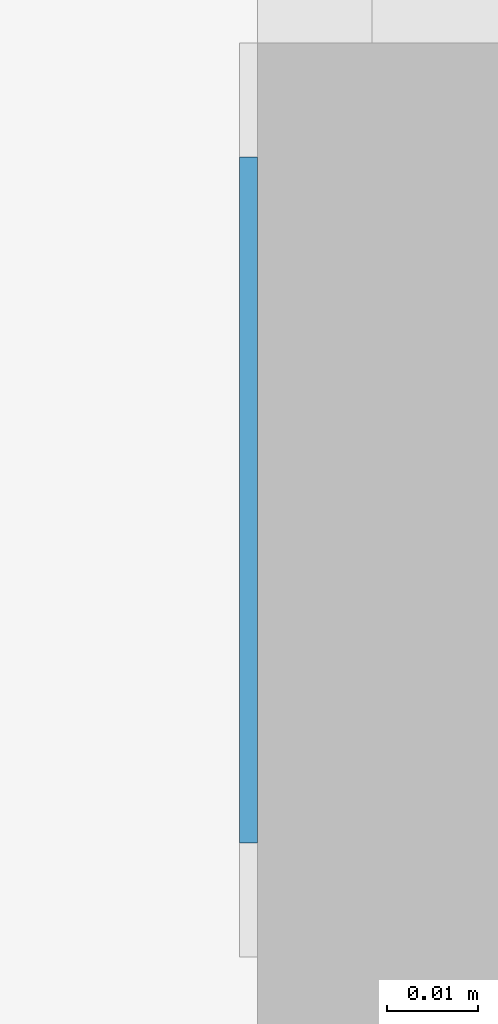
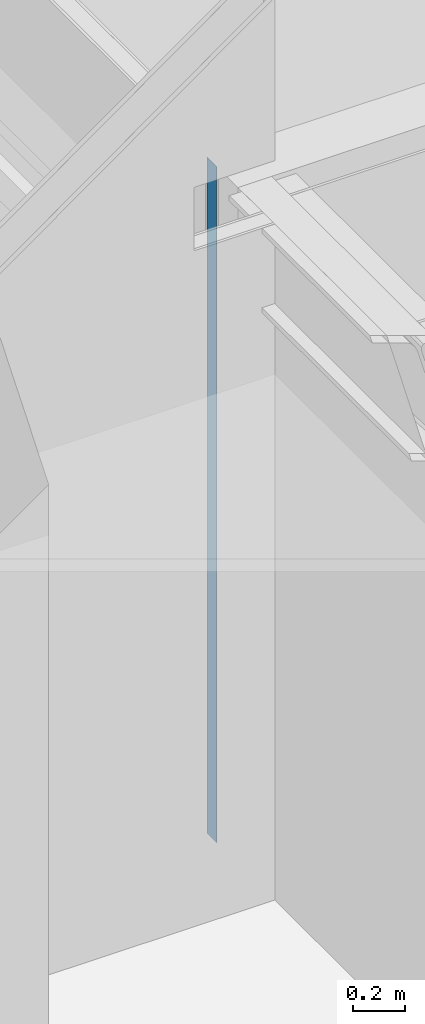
# One storey, part 80 of 117: 1 building element part, 1 element without a shape of its own.
"""IFC2X3 building model written with IfcOpenShell, lengths in millimetres."""

from ifc_helpers import new_model, entity, si_unit, converted_unit, derived_unit, money_unit, direction, frame, origin_with_axes, place, context, subcontext, project, spatial, faceted_brep, material, type_object, element, aggregate, save


model = new_model("IFC2X3")

# Units and contexts
model_context = context("Model", 3, precision=0.01, world=origin_with_axes(), true_north=direction((0.0, 1.0)))
body_context = subcontext(model_context, "Body", "Model", "MODEL_VIEW")
ifc_project = project(units=[si_unit("LENGTHUNIT", "METRE", prefix="MILLI"), si_unit("AREAUNIT", "SQUARE_METRE"), si_unit("VOLUMEUNIT", "CUBIC_METRE"), converted_unit("PLANEANGLEUNIT", "DEGREE", entity("IfcPlaneAngleMeasure", 0.0174532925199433), si_unit("PLANEANGLEUNIT", "RADIAN"), dimensions=[0, 0, 0, 0, 0, 0, 0]), money_unit("EUR"), converted_unit("TIMEUNIT", "Year", entity("IfcTimeMeasure", 31557600.0), si_unit("TIMEUNIT", "SECOND"), dimensions=[0, 0, 1, 0, 0, 0, 0]), si_unit("MASSUNIT", "GRAM", prefix="KILO"), si_unit("THERMODYNAMICTEMPERATUREUNIT", "DEGREE_CELSIUS"), si_unit("LUMINOUSINTENSITYUNIT", "LUMEN"), si_unit("ENERGYUNIT", "JOULE", prefix="MEGA"), derived_unit("THERMALCONDUCTANCEUNIT", [(si_unit("POWERUNIT", "WATT"), 1), (si_unit("LENGTHUNIT", "METRE"), -1), (si_unit("THERMODYNAMICTEMPERATUREUNIT", "KELVIN"), -1)]), derived_unit("SPECIFICHEATCAPACITYUNIT", [(si_unit("ENERGYUNIT", "JOULE"), 1), (si_unit("MASSUNIT", "GRAM", prefix="KILO"), -1), (si_unit("THERMODYNAMICTEMPERATUREUNIT", "KELVIN"), -1)]), derived_unit("MASSDENSITYUNIT", [(si_unit("MASSUNIT", "GRAM", prefix="KILO"), 1), (si_unit("VOLUMEUNIT", "CUBIC_METRE"), -1)])], contexts=[model_context])

# Site, building, storey
site_placement = place(None, origin_with_axes())
site = spatial("IfcSite", under=ifc_project, at=site_placement, Name="Site", CompositionType="ELEMENT")
building_placement = place(site_placement, origin_with_axes())
building = spatial("IfcBuilding", under=site, at=building_placement, Name="Naam gebouw", CompositionType="ELEMENT")
storey_placement = place(building_placement, frame((0.0, 0.0, 4150.0), z_axis=(0.0, 0.0, 1.0), x_axis=(1.0, 0.0, 0.0)))
storey = spatial("IfcBuildingStorey", under=building, at=storey_placement, Name="1e verdieping N", CompositionType="ELEMENT", Elevation=4150.0)

# Wall, building element part
wall_type = type_object("IfcWallType", Name="Metalstud iso 100 100", PredefinedType="NOTDEFINED")
wall_placement = place(storey_placement, frame((30456.99999999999, 18150.91242510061, -99.99999999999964), z_axis=(0.0, 0.0, 1.0), x_axis=(-1.0, 0.0, 0.0)))
wall = element("IfcWall", 1, at=wall_placement, inside=storey, type_object=wall_type, Name="_Wand-x")
ifc_material = material(Name="Isolatie - Steenwol LSW")
building_element_part_placement = place(wall_placement, origin_with_axes())
building_element_part = element("IfcBuildingElementPart", 2, at=building_element_part_placement, material=ifc_material, Name="Isolatie - Steenwol LSW", context=body_context, shape_type="Brep", body=[
    faceted_brep([(149.9999999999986, 87.50000000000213, 99.99999999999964), (149.9999999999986, 12.49999999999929, 99.99999999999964), (149.9999999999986, 12.49999999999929, 3300.0), (149.9999999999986, 87.50000000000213, 3300.0), (151.9999999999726, 12.49999999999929, 99.99999999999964), (151.9999999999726, 87.49999999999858, 99.99999999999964), (151.9999999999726, 12.49999999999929, 3300.0), (151.9999999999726, 87.49999999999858, 3300.0)], [[[0, 1, 2, 3]], [[4, 1, 0, 5]], [[1, 4, 6, 2]], [[3, 2, 6, 7]], [[5, 0, 3, 7]], [[4, 5, 7, 6]]]),
])
aggregate(wall, [building_element_part])

save(model, "model.ifc")
